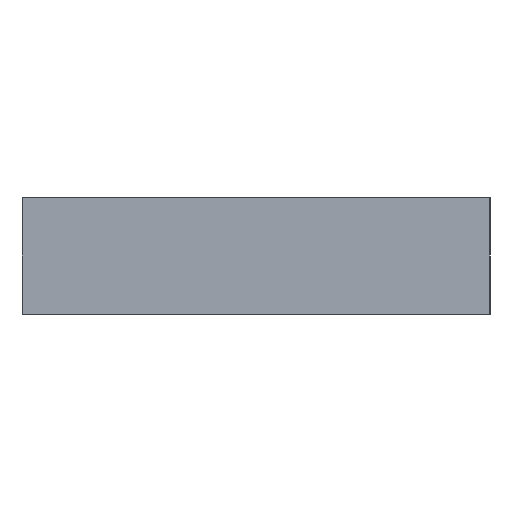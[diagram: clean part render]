
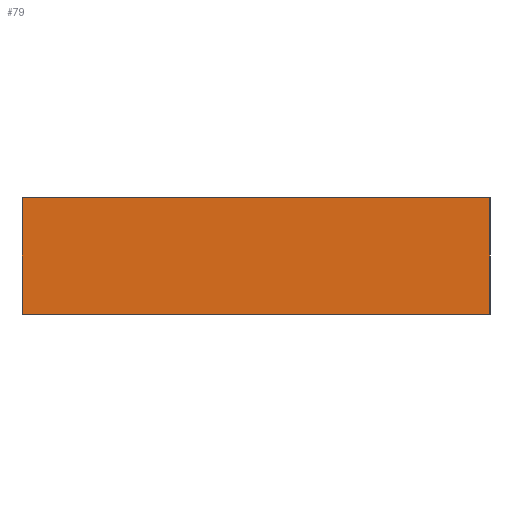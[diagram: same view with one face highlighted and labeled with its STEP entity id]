
A CAD part, left-side view. The second image highlights one B-rep face of the part: STEP entity #79.
In plain terms, the highlighted planar face has unit normal (-1, 0, 0).
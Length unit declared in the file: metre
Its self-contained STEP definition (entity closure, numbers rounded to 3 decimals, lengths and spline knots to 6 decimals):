
#79=ADVANCED_FACE('0:33',(#144),#145,.T.);
#144=FACE_OUTER_BOUND('',#204,.T.);
#145=PLANE('',#205);
#204=EDGE_LOOP('',(#293,#294,#295,#296));
#205=AXIS2_PLACEMENT_3D('',#297,#298,#299);
#293=ORIENTED_EDGE('',*,*,#326,.T.);
#294=ORIENTED_EDGE('',*,*,#356,.F.);
#295=ORIENTED_EDGE('',*,*,#333,.F.);
#296=ORIENTED_EDGE('',*,*,#354,.T.);
#297=CARTESIAN_POINT('',(0.0,-0.004,0.0));
#298=DIRECTION('',(-1.0,-0.0,0.0));
#299=DIRECTION('',(0.0,0.0,1.0));
#326=EDGE_CURVE('',#371,#375,#377,.T.);
#333=EDGE_CURVE('',#387,#389,#390,.T.);
#354=EDGE_CURVE('',#387,#371,#417,.T.);
#356=EDGE_CURVE('',#389,#375,#419,.T.);
#371=VERTEX_POINT('',#436);
#375=VERTEX_POINT('',#442);
#377=LINE('',#445,#446);
#387=VERTEX_POINT('',#457);
#389=VERTEX_POINT('',#460);
#390=LINE('',#461,#462);
#417=LINE('',#494,#495);
#419=LINE('',#497,#498);
#436=CARTESIAN_POINT('',(0.0,-0.008,0.002));
#442=CARTESIAN_POINT('',(0.0,0.0,0.002));
#445=CARTESIAN_POINT('',(0.0,-0.008,0.002));
#446=VECTOR('',#513,1.0);
#457=CARTESIAN_POINT('',(0.0,-0.008,0.0));
#460=CARTESIAN_POINT('',(0.0,0.0,0.0));
#461=CARTESIAN_POINT('',(0.0,-0.008,0.0));
#462=VECTOR('',#525,1.0);
#494=CARTESIAN_POINT('',(0.0,-0.008,0.0));
#495=VECTOR('',#552,1.0);
#497=CARTESIAN_POINT('',(0.0,0.0,0.0));
#498=VECTOR('',#553,1.0);
#513=DIRECTION('',(0.0,1.0,0.0));
#525=DIRECTION('',(0.0,1.0,0.0));
#552=DIRECTION('',(0.0,0.0,1.0));
#553=DIRECTION('',(0.0,0.0,1.0));
